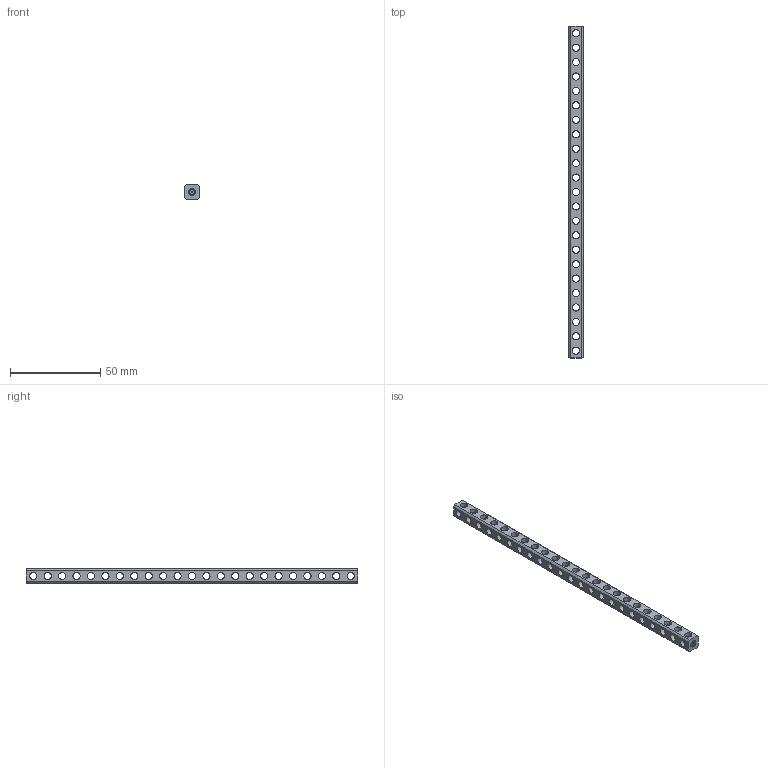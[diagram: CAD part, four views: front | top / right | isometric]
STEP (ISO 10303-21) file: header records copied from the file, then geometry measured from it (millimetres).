
FILE_DESCRIPTION (( 'STEP AP203' ), '1' );
FILE_NAME ('1119-0023-0184.STEP', '2017-04-18T19:13:16', ( '' ), ( '' ), 'SwSTEP 2.0', 'SolidWorks 2016', '' );
FILE_SCHEMA (( 'CONFIG_CONTROL_DESIGN' ));
Products named in the file (1): 1119-0023-0184
Bounding box: 8 x 184 x 8 mm (x, y, z)
Volume: 7672 mm3; surface area: 7724.8 mm2
Topology: 1 solids, 1 shells, 340 faces, 1032 edges, 642 vertices
Faces by surface type: cylinder 294, bspline 34, cone 6, plane 6
Entity records: 49307 total; most frequent: CARTESIAN_POINT 41287, ORIENTED_EDGE 2064, DIRECTION 1298, EDGE_CURVE 1032, VERTEX_POINT 642, AXIS2_PLACEMENT_3D 511, EDGE_LOOP 434, ADVANCED_FACE 340
